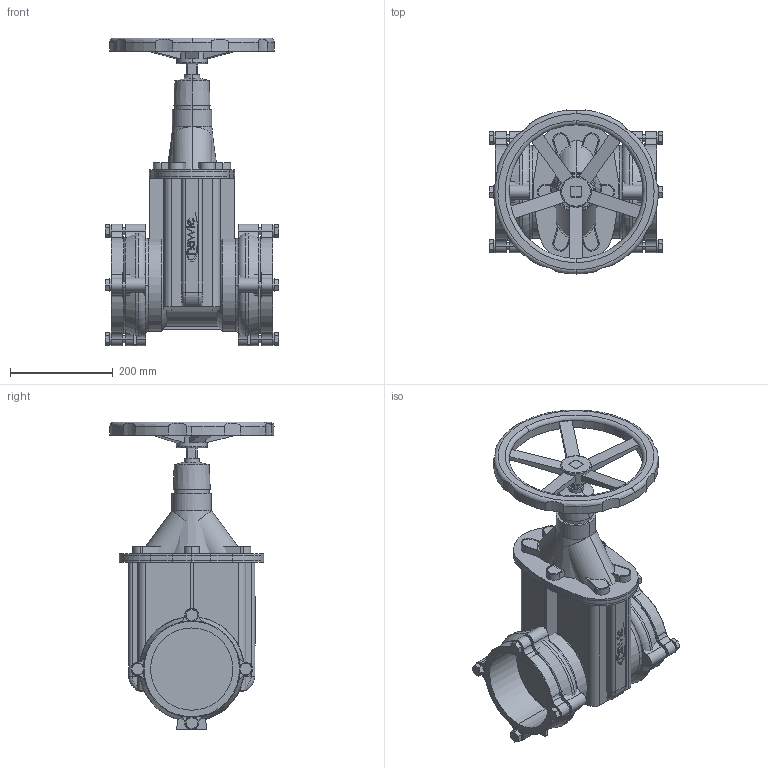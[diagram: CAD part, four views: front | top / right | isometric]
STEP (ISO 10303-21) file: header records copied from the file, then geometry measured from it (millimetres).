
FILE_DESCRIPTION(('STEP AP214'),'1');
FILE_NAME('S:/EK/USER/CAT6/3DHomepage/4040E2/4040E2-PN16-DN150-160-HANDRAD.STP','2012-04-24T11:16:30',(' '),(' '),'Spatial InterOp 3D',' ',' ');
FILE_SCHEMA(('automotive_design'));
Length unit declared in the file: millimetre
Products named in the file (95): 3D-Objekt
Bounding box: 337.6 x 318.96 x 598 mm (x, y, z)
Volume: 14480221.6 mm3; surface area: 1474614.5 mm2
Topology: 95 solids, 95 shells, 818 faces, 1856 edges, 1236 vertices
Faces by surface type: plane 455, cylinder 309, torus 36, cone 14, bspline 4
Entity records: 32249 total; most frequent: DIRECTION 4424, CARTESIAN_POINT 4367, ORIENTED_EDGE 3712, EDGE_CURVE 1856, AXIS2_PLACEMENT_3D 1669, VERTEX_POINT 1236, LINE 1086, VECTOR 1086
